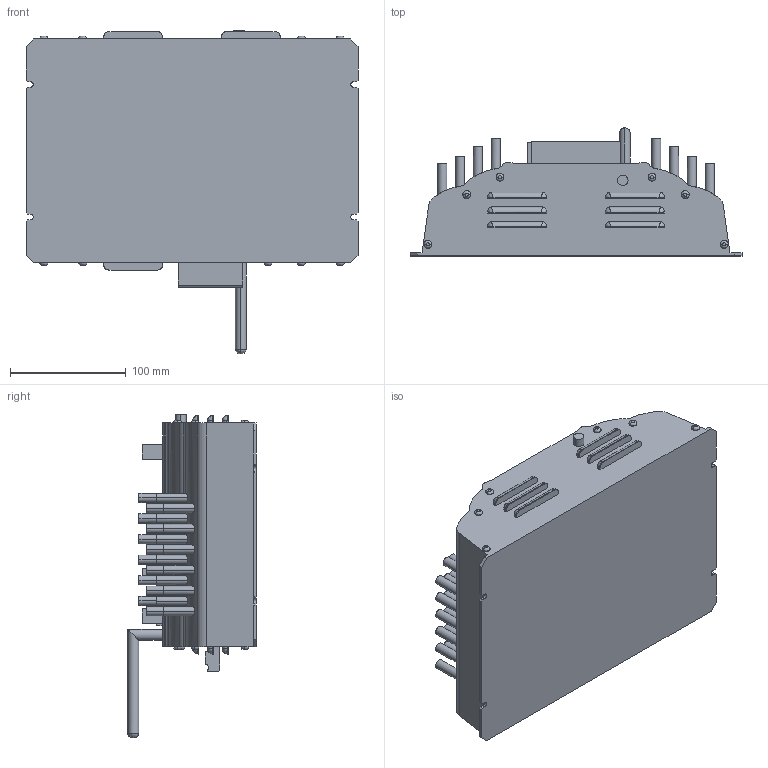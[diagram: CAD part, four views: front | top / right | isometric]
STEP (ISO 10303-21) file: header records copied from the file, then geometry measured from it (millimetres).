
FILE_DESCRIPTION((''),'2;1');
FILE_NAME('MP200','2013-03-04T',('Vpd4'),(''),'PRO/ENGINEER BY PARAMETRIC TECHNOLOGY CORPORATION, 2005380','PRO/ENGINEER BY PARAMETRIC TECHNOLOGY CORPORATION, 2005380','');
FILE_SCHEMA(('CONFIG_CONTROL_DESIGN'));
Length unit declared in the file: inch
Products named in the file (1): MP200
Bounding box: 286.48 x 110.65 x 279.35 mm (x, y, z)
Volume: 3698704.7 mm3; surface area: 215794.3 mm2
Topology: 1 solids, 1 shells, 425 faces, 1043 edges, 656 vertices
Faces by surface type: cylinder 199, plane 180, bspline 46
Entity records: 14867 total; most frequent: CARTESIAN_POINT 5146, ORIENTED_EDGE 2050, DIRECTION 1917, EDGE_CURVE 1025, AXIS2_PLACEMENT_3D 697, VERTEX_POINT 656, VECTOR 523, LINE 523
